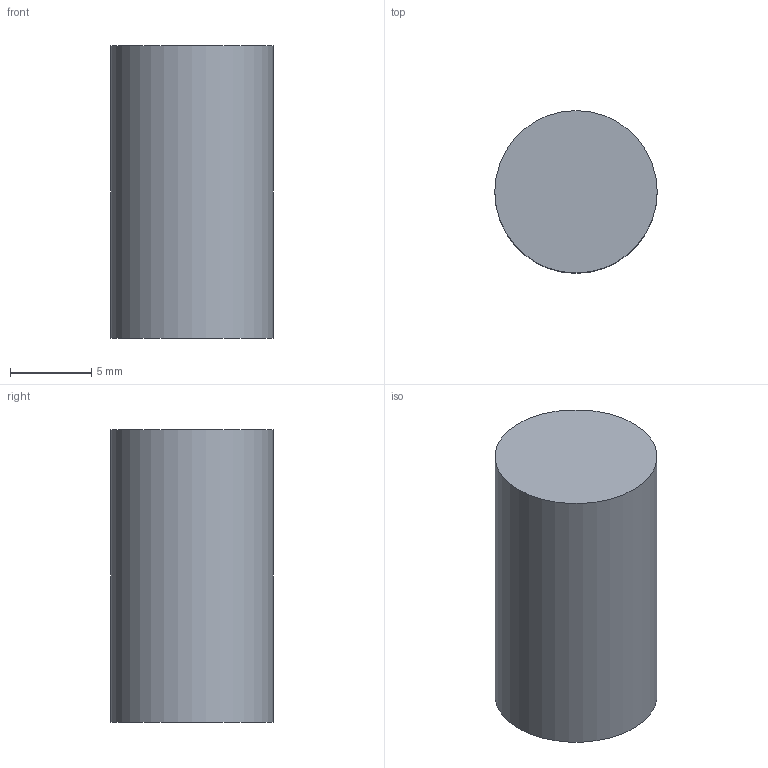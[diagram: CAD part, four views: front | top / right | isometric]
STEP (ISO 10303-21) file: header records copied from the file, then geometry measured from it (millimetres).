
FILE_DESCRIPTION(('Open CASCADE Model'),'2;1');
FILE_NAME('Open CASCADE Shape Model','2026-10-04T02:31:35',('Author'),( 'Open CASCADE'),'Open CASCADE STEP processor 8.0','Open CASCADE 8.0' ,'Unknown');
FILE_SCHEMA(('AUTOMOTIVE_DESIGN { 1 0 10303 214 1 1 1 1 }'));
Length unit declared in the file: millimetre
Products named in the file (1): Open CASCADE STEP translator 8.0 72
Bounding box: 10 x 10 x 18 mm (x, y, z)
Volume: 1413.7 mm3; surface area: 722.6 mm2
Topology: 1 solids, 1 shells, 3 faces, 3 edges, 2 vertices
Faces by surface type: plane 2, cylinder 1
Full cylindrical faces by diameter (mm): 10 x1
Entity records: 108 total; most frequent: DIRECTION 19, CARTESIAN_POINT 15, AXIS2_PLACEMENT_3D 6, ORIENTED_EDGE 6, PCURVE 6, DEFINITIONAL_REPRESENTATION 6, LINE 5, VECTOR 5
